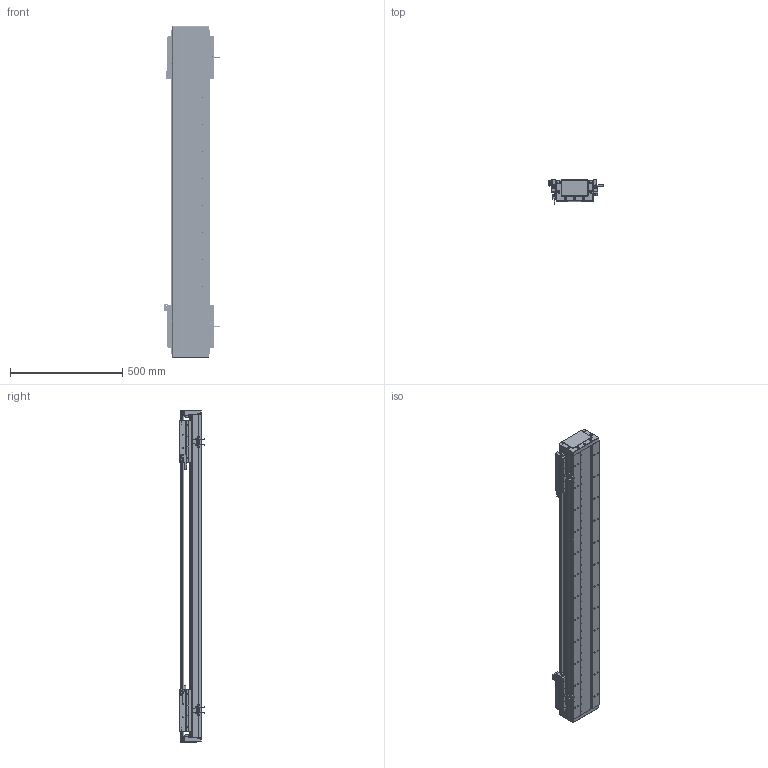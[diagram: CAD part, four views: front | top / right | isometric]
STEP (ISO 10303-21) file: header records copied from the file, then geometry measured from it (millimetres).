
FILE_DESCRIPTION (( 'STEP AP203' ), '1' );
FILE_NAME ('DA-C165-2-C2-T980-C010-0.2 直线电机.STEP', '2023-05-11T08:19:22', ( '微软用户' ), ( '微软中国' ), 'SwSTEP 2.0', 'SolidWorks 2019', '' );
FILE_SCHEMA (( 'CONFIG_CONTROL_DESIGN' ));
Length unit declared in the file: millimetre
Products named in the file (19): 葩璃 DA95-GT-T-00^IU-CU165-L 菁釱絳寢_T; 复件 DA165-DG-H-N-00 端盖^DA-C165-C2-T-C010-0.2-N 直线电机; 复件 DMA-010-0.2 读数头^DA-C165-C2-T-C010-0.2-N 直线电机; 葩璃 PM-T45^DA-C165-C2-T-C010-0.2-N 眻盄萇儂; 复件 DA165-GYP-00 光电感应片^DA-C165-C2-T-C010-0.2-N 直线电机; 复件 DA95-HXJ-00 缓冲橡胶^DA-C165-C2-T-C010-0.2-N 直线电机; 复件 DA165-T-002-00 盖板^DA-C165-C2-T-C010-0.2-N 直线电机_0840-002-00; IU-CU165-L 菁釱絳寢; 葩璃 PM-Y45^DA-C165-C2-T-C010-0.2-N 眻盄萇儂; 复件 DA126-GYP-ZJ-00 中间光电感应片^DA-C165-C2-T-C010-0.2-N 直线电机; 复件 66338-1000-006-00 光电感应块^DA-C165-C2-T-C010-0.2-N 直线电机; 珨极趙賑雄怢啣wf-C2; IU-CU165-L-00 菁釱_L1440; 复件 六角薄螺母 M3^DA-C165-C2-T-C010-0.2-N 直线电机_GB_FASTENER_NUT_STNAB M3-C; DA-C165-2-C2-T980-C010-0.2 眻盄萇儂; 葩璃 CKM01-W075-TRL^DA-C165-C2-T-C010-0.2-N 眻盄萇儂; 复件 CKM02-W075-C1C2-TP-3.0 一体电机-C2^DA-C165-C2-T-C010-0.2-N 直线电机; 复件 XD-U-02L 磁栅尺^DA-C165-C2-T-C010-0.2-N 直线电机_T; 复件 DKW-HXJ-JY-00 缓冲橡胶^DA-C165-C2-T-C010-0.2-N 直线电机
Assembly tree (38 placements, depth 3):
  DA-C165-2-C2-T980-C010-0.2 眻盄萇儂
    IU-CU165-L 菁釱絳寢
      IU-CU165-L-00 菁釱_L1440
      葩璃 DA95-GT-T-00^IU-CU165-L 菁釱絳寢_T  x4
    复件 DA165-DG-H-N-00 端盖^DA-C165-C2-T-C010-0.2-N 直线电机  x2
    复件 DA95-HXJ-00 缓冲橡胶^DA-C165-C2-T-C010-0.2-N 直线电机  x4
    复件 DA165-T-002-00 盖板^DA-C165-C2-T-C010-0.2-N 直线电机_0840-002-00
    复件 XD-U-02L 磁栅尺^DA-C165-C2-T-C010-0.2-N 直线电机_T
    葩璃 PM-T45^DA-C165-C2-T-C010-0.2-N 眻盄萇儂  x4
    葩璃 CKM01-W075-TRL^DA-C165-C2-T-C010-0.2-N 眻盄萇儂
    复件 CKM02-W075-C1C2-TP-3.0 一体电机-C2^DA-C165-C2-T-C010-0.2-N 直线电机  x2
    复件 DMA-010-0.2 读数头^DA-C165-C2-T-C010-0.2-N 直线电机  x2
    复件 DA165-GYP-00 光电感应片^DA-C165-C2-T-C010-0.2-N 直线电机  x2
    复件 66338-1000-006-00 光电感应块^DA-C165-C2-T-C010-0.2-N 直线电机
    葩璃 PM-Y45^DA-C165-C2-T-C010-0.2-N 眻盄萇儂
    复件 DA126-GYP-ZJ-00 中间光电感应片^DA-C165-C2-T-C010-0.2-N 直线电机
    复件 DKW-HXJ-JY-00 缓冲橡胶^DA-C165-C2-T-C010-0.2-N 直线电机  x2
    复件 六角薄螺母 M3^DA-C165-C2-T-C010-0.2-N 直线电机_GB_FASTENER_NUT_STNAB M3-C  x6
    珨极趙賑雄怢啣wf-C2  x2
Bounding box: 247.2 x 111.45 x 1480 mm (x, y, z)
Volume: 11665454.8 mm3; surface area: 3123072.9 mm2
Topology: 115 solids, 115 shells, 5048 faces, 13663 edges, 8536 vertices
Faces by surface type: cylinder 2494, plane 1778, cone 680, torus 88, sphere 8
Entity records: 107588 total; most frequent: CARTESIAN_POINT 25898, DIRECTION 16629, ORIENTED_EDGE 16572, EDGE_CURVE 8286, AXIS2_PLACEMENT_3D 6226, VERTEX_POINT 5373, VECTOR 4177, LINE 4177
